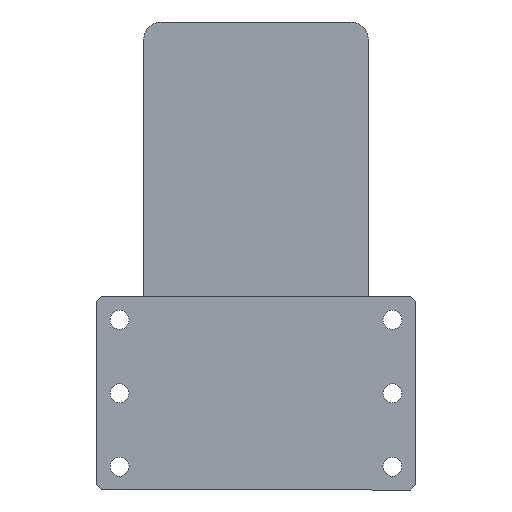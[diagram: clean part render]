
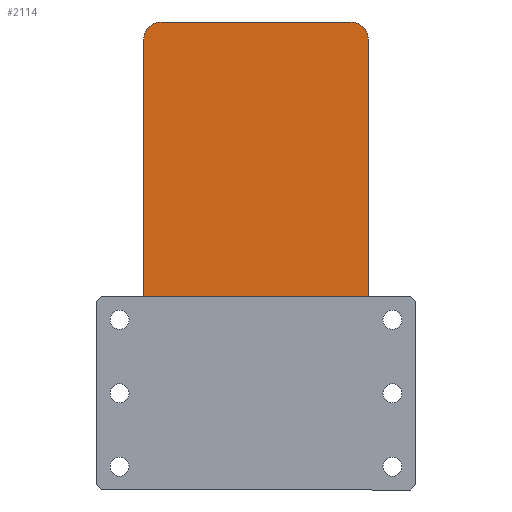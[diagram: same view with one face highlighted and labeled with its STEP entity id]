
A CAD part, left-side view. The second image highlights one B-rep face of the part: STEP entity #2114.
In plain terms, the highlighted planar face has unit normal (-1, 0, 0) as drawn and (0, 0, 1) by its records, which use the part's own axes.
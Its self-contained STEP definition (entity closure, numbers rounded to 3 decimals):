
#164 = LINE ( 'NONE', #7167, #189 ) ;
#189 = VECTOR ( 'NONE', #7140, 1000. ) ;
#427 = CIRCLE ( 'NONE', #9806, 10. ) ;
#468 = VECTOR ( 'NONE', #8451, 1000. ) ;
#533 = LINE ( 'NONE', #8520, #468 ) ;
#1131 = VECTOR ( 'NONE', #16180, 1000. ) ;
#1194 = LINE ( 'NONE', #16282, #1131 ) ;
#1384 = VECTOR ( 'NONE', #16886, 1000. ) ;
#1516 = CIRCLE ( 'NONE', #17796, 10. ) ;
#1567 = LINE ( 'NONE', #16912, #1384 ) ;
#2114 = ADVANCED_FACE ( 'NONE', ( #12510 ), #17942, .T. ) ;
#3587 = CARTESIAN_POINT ( 'NONE',  ( -55., 135., 105. ) ) ;
#5007 = DIRECTION ( 'NONE',  ( 1., 0., 0. ) ) ;
#5047 = DIRECTION ( 'NONE',  ( 0., 0., 1. ) ) ;
#5071 = CARTESIAN_POINT ( 'NONE',  ( -55., -125., 105. ) ) ;
#5678 = CARTESIAN_POINT ( 'NONE',  ( -55., -135., 105. ) ) ;
#6058 = DIRECTION ( 'NONE',  ( 1., 0., 0. ) ) ;
#6101 = DIRECTION ( 'NONE',  ( 0., 0., 1. ) ) ;
#6125 = CARTESIAN_POINT ( 'NONE',  ( -55., 125., 105. ) ) ;
#6901 = VERTEX_POINT ( 'NONE', #9461 ) ;
#6944 = VERTEX_POINT ( 'NONE', #8813 ) ;
#7024 = CARTESIAN_POINT ( 'NONE',  ( 65., -125., 105. ) ) ;
#7140 = DIRECTION ( 'NONE',  ( 1., 0., 0. ) ) ;
#7167 = CARTESIAN_POINT ( 'NONE',  ( -65., -135., 105. ) ) ;
#7250 = VERTEX_POINT ( 'NONE', #9055 ) ;
#7667 = VERTEX_POINT ( 'NONE', #3587 ) ;
#7921 = DIRECTION ( 'NONE',  ( 1., 0., 0. ) ) ;
#7945 = DIRECTION ( 'NONE',  ( 0., 0., 1. ) ) ;
#7990 = CARTESIAN_POINT ( 'NONE',  ( 55., -125., 105. ) ) ;
#8004 = EDGE_CURVE ( 'NONE', #6944, #10082, #1516, .T. ) ;
#8027 = EDGE_CURVE ( 'NONE', #10082, #7667, #1567, .T. ) ;
#8175 = EDGE_CURVE ( 'NONE', #20424, #6944, #1194, .T. ) ;
#8451 = DIRECTION ( 'NONE',  ( 0., -1., 0. ) ) ;
#8498 = CARTESIAN_POINT ( 'NONE',  ( 55., -135., 105. ) ) ;
#8520 = CARTESIAN_POINT ( 'NONE',  ( -65., 135., 105. ) ) ;
#8656 = VERTEX_POINT ( 'NONE', #8498 ) ;
#8662 = EDGE_CURVE ( 'NONE', #6901, #7250, #533, .T. ) ;
#8699 = EDGE_CURVE ( 'NONE', #8656, #20424, #427, .T. ) ;
#8770 = EDGE_CURVE ( 'NONE', #18820, #8656, #164, .T. ) ;
#8813 = CARTESIAN_POINT ( 'NONE',  ( 65., 125., 105. ) ) ;
#8871 = ORIENTED_EDGE ( 'NONE', *, *, #8662, .T. ) ;
#8894 = EDGE_CURVE ( 'NONE', #7667, #6901, #13349, .T. ) ;
#9026 = EDGE_CURVE ( 'NONE', #7250, #18820, #20623, .T. ) ;
#9055 = CARTESIAN_POINT ( 'NONE',  ( -65., -125., 105. ) ) ;
#9461 = CARTESIAN_POINT ( 'NONE',  ( -65., 125., 105. ) ) ;
#9646 = ORIENTED_EDGE ( 'NONE', *, *, #8699, .T. ) ;
#9806 = AXIS2_PLACEMENT_3D ( 'NONE', #7990, #7945, #7921 ) ;
#10082 = VERTEX_POINT ( 'NONE', #11884 ) ;
#10166 = ORIENTED_EDGE ( 'NONE', *, *, #8027, .T. ) ;
#11170 = ORIENTED_EDGE ( 'NONE', *, *, #9026, .T. ) ;
#11884 = CARTESIAN_POINT ( 'NONE',  ( 55., 135., 105. ) ) ;
#12510 = FACE_OUTER_BOUND ( 'NONE', #18738, .T. ) ;
#13349 = CIRCLE ( 'NONE', #17144, 10. ) ;
#14452 = ORIENTED_EDGE ( 'NONE', *, *, #8894, .T. ) ;
#14684 = ORIENTED_EDGE ( 'NONE', *, *, #8004, .T. ) ;
#14705 = ORIENTED_EDGE ( 'NONE', *, *, #8770, .T. ) ;
#16180 = DIRECTION ( 'NONE',  ( 0., 1., 0. ) ) ;
#16282 = CARTESIAN_POINT ( 'NONE',  ( 65., 135., 105. ) ) ;
#16886 = DIRECTION ( 'NONE',  ( -1., 0., 0. ) ) ;
#16912 = CARTESIAN_POINT ( 'NONE',  ( -65., 135., 105. ) ) ;
#17027 = DIRECTION ( 'NONE',  ( 1., 0., 0. ) ) ;
#17063 = DIRECTION ( 'NONE',  ( 0., 0., 1. ) ) ;
#17089 = CARTESIAN_POINT ( 'NONE',  ( 55., 125., 105. ) ) ;
#17144 = AXIS2_PLACEMENT_3D ( 'NONE', #6125, #6101, #6058 ) ;
#17413 = AXIS2_PLACEMENT_3D ( 'NONE', #17762, #17628, #17607 ) ;
#17607 = DIRECTION ( 'NONE',  ( 1., 0., 0. ) ) ;
#17628 = DIRECTION ( 'NONE',  ( 0., 0., 1. ) ) ;
#17762 = CARTESIAN_POINT ( 'NONE',  ( 0., 0., 105. ) ) ;
#17796 = AXIS2_PLACEMENT_3D ( 'NONE', #17089, #17063, #17027 ) ;
#17942 = PLANE ( 'NONE',  #17413 ) ;
#18738 = EDGE_LOOP ( 'NONE', ( #14705, #9646, #20142, #14684, #10166, #14452, #8871, #11170 ) ) ;
#18820 = VERTEX_POINT ( 'NONE', #5678 ) ;
#19823 = AXIS2_PLACEMENT_3D ( 'NONE', #5071, #5047, #5007 ) ;
#20142 = ORIENTED_EDGE ( 'NONE', *, *, #8175, .T. ) ;
#20424 = VERTEX_POINT ( 'NONE', #7024 ) ;
#20623 = CIRCLE ( 'NONE', #19823, 10. ) ;
